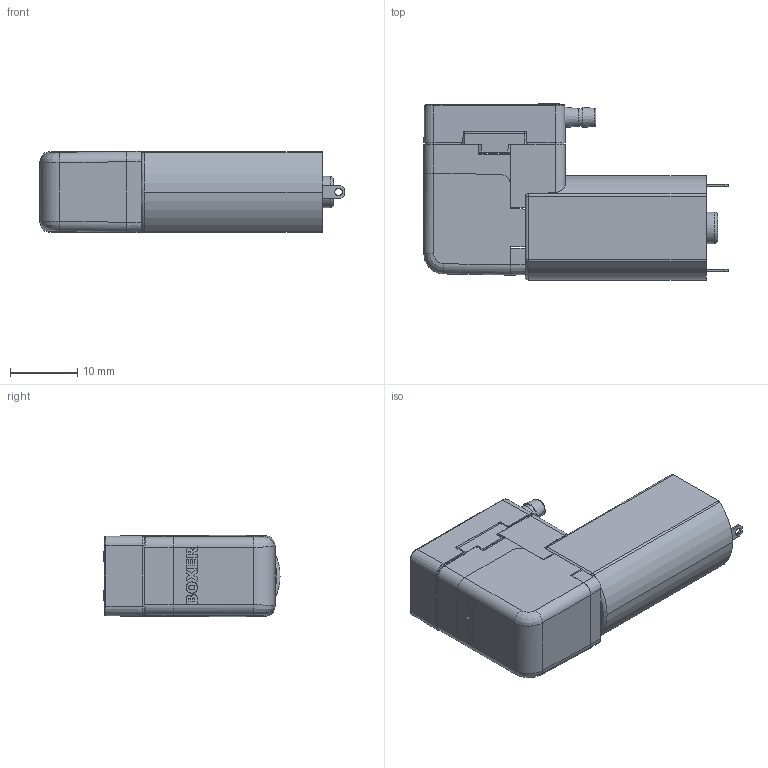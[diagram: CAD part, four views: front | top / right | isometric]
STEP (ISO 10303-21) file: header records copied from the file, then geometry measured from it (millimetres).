
FILE_DESCRIPTION (( 'STEP AP203' ), '1' );
FILE_NAME ('20K Iron Core L.STEP', '2021-05-23T14:19:26', ( '' ), ( '' ), 'SwSTEP 2.0', 'SolidWorks 2020', '' );
FILE_SCHEMA (( 'CONFIG_CONTROL_DESIGN' ));
Length unit declared in the file: millimetre
Products named in the file (1): 20K Iron Core L
Bounding box: 45.16 x 26.15 x 12.08 mm (x, y, z)
Surface area: 4415.9 mm2 (no closed solid volume)
Topology: 0 solids, 11 shells, 342 faces, 1204 edges, 879 vertices
Faces by surface type: plane 181, cylinder 68, bspline 48, cone 45
Entity records: 15230 total; most frequent: CARTESIAN_POINT 5137, DIRECTION 1972, ORIENTED_EDGE 1956, EDGE_CURVE 1204, VERTEX_POINT 879, VECTOR 698, LINE 698, AXIS2_PLACEMENT_3D 637
